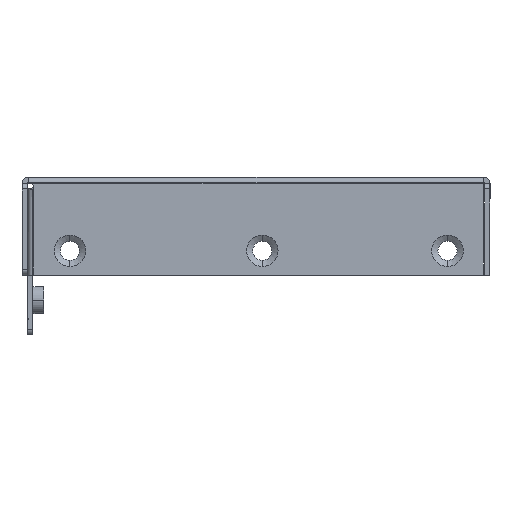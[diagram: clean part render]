
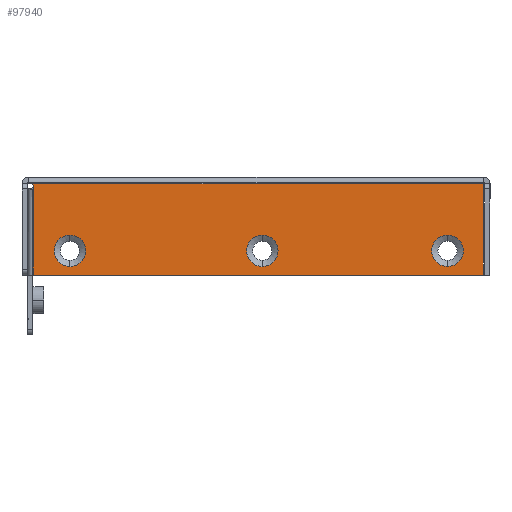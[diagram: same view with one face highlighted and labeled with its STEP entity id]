
A CAD part, left-side view. The second image highlights one B-rep face of the part: STEP entity #97940.
In plain terms, the highlighted planar face has unit normal (-1, 0, 0).
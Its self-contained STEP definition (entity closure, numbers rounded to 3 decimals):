
#44839=DIRECTION('',(0.,1.,0.));
#44840=VECTOR('',#44839,83.1);
#44841=CARTESIAN_POINT('',(-220.,1.2,-1.2));
#44842=LINE('',#44841,#44840);
#44876=CARTESIAN_POINT('',(-220.,84.3,-1.7));
#44877=DIRECTION('',(1.,0.,0.));
#44878=DIRECTION('',(0.,0.,1.));
#44879=AXIS2_PLACEMENT_3D('',#44876,#44877,#44878);
#44884=DIRECTION('',(0.,0.,1.));
#44885=VECTOR('',#44884,16.8);
#44886=CARTESIAN_POINT('',(-220.,1.2,-18.));
#44887=LINE('',#44886,#44885);
#44891=CARTESIAN_POINT('',(-220.,77.1,-13.55));
#44892=DIRECTION('',(1.,0.,0.));
#44893=DIRECTION('',(0.,0.,-1.));
#44894=AXIS2_PLACEMENT_3D('',#44891,#44892,#44893);
#44899=CARTESIAN_POINT('',(-220.,77.1,-13.55));
#44900=DIRECTION('',(1.,0.,0.));
#44901=DIRECTION('',(0.,0.,1.));
#44902=AXIS2_PLACEMENT_3D('',#44899,#44900,#44901);
#44907=CARTESIAN_POINT('',(-220.,41.8,-13.55));
#44908=DIRECTION('',(1.,0.,0.));
#44909=DIRECTION('',(0.,0.,-1.));
#44910=AXIS2_PLACEMENT_3D('',#44907,#44908,#44909);
#44915=CARTESIAN_POINT('',(-220.,41.8,-13.55));
#44916=DIRECTION('',(1.,0.,0.));
#44917=DIRECTION('',(0.,0.,1.));
#44918=AXIS2_PLACEMENT_3D('',#44915,#44916,#44917);
#44923=CARTESIAN_POINT('',(-220.,7.8,-13.55));
#44924=DIRECTION('',(1.,0.,0.));
#44925=DIRECTION('',(0.,0.,1.));
#44926=AXIS2_PLACEMENT_3D('',#44923,#44924,#44925);
#44931=CARTESIAN_POINT('',(-220.,7.8,-13.55));
#44932=DIRECTION('',(1.,0.,0.));
#44933=DIRECTION('',(0.,0.,-1.));
#44934=AXIS2_PLACEMENT_3D('',#44931,#44932,#44933);
#44963=DIRECTION('',(0.,0.,-1.));
#44964=VECTOR('',#44963,16.3);
#44965=CARTESIAN_POINT('',(-220.,83.8,-1.7));
#44966=LINE('',#44965,#44964);
#45113=DIRECTION('',(0.,-1.,0.));
#45114=VECTOR('',#45113,82.6);
#45115=CARTESIAN_POINT('',(-220.,83.8,-18.));
#45116=LINE('',#45115,#45114);
#68873=CARTESIAN_POINT('',(-220.,1.2,-18.));
#68874=CARTESIAN_POINT('',(-220.,1.2,-1.2));
#68875=VERTEX_POINT('',#68873);
#68876=VERTEX_POINT('',#68874);
#69061=CARTESIAN_POINT('',(-220.,77.1,-16.443));
#69062=CARTESIAN_POINT('',(-220.,77.1,-10.657));
#69063=VERTEX_POINT('',#69061);
#69064=VERTEX_POINT('',#69062);
#69069=CARTESIAN_POINT('',(-220.,41.8,-16.443));
#69070=CARTESIAN_POINT('',(-220.,41.8,-10.657));
#69071=VERTEX_POINT('',#69069);
#69072=VERTEX_POINT('',#69070);
#69077=CARTESIAN_POINT('',(-220.,7.8,-10.657));
#69078=CARTESIAN_POINT('',(-220.,7.8,-16.443));
#69079=VERTEX_POINT('',#69077);
#69080=VERTEX_POINT('',#69078);
#79405=CARTESIAN_POINT('',(-220.,84.3,-1.2));
#79406=VERTEX_POINT('',#79405);
#79413=CARTESIAN_POINT('',(-220.,83.8,-18.));
#79414=VERTEX_POINT('',#79413);
#79427=CARTESIAN_POINT('',(-220.,83.8,-1.7));
#79428=VERTEX_POINT('',#79427);
#97906=CARTESIAN_POINT('',(-220.,84.7,0.));
#97907=DIRECTION('',(-1.,0.,0.));
#97908=DIRECTION('',(0.,1.,0.));
#97909=AXIS2_PLACEMENT_3D('',#97906,#97907,#97908);
#97910=PLANE('',#97909);
#97912=ORIENTED_EDGE('',*,*,#97911,.F.);
#97914=ORIENTED_EDGE('',*,*,#97913,.F.);
#97915=ORIENTED_EDGE('',*,*,#97896,.F.);
#97917=ORIENTED_EDGE('',*,*,#97916,.F.);
#97919=ORIENTED_EDGE('',*,*,#97918,.F.);
#97920=EDGE_LOOP('',(#97912,#97914,#97915,#97917,#97919));
#97921=FACE_OUTER_BOUND('',#97920,.F.);
#97923=ORIENTED_EDGE('',*,*,#97922,.F.);
#97925=ORIENTED_EDGE('',*,*,#97924,.F.);
#97926=EDGE_LOOP('',(#97923,#97925));
#97927=FACE_BOUND('',#97926,.F.);
#97929=ORIENTED_EDGE('',*,*,#97928,.F.);
#97931=ORIENTED_EDGE('',*,*,#97930,.F.);
#97932=EDGE_LOOP('',(#97929,#97931));
#97933=FACE_BOUND('',#97932,.F.);
#97935=ORIENTED_EDGE('',*,*,#97934,.F.);
#97937=ORIENTED_EDGE('',*,*,#97936,.F.);
#97938=EDGE_LOOP('',(#97935,#97937));
#97939=FACE_BOUND('',#97938,.F.);
#44880=CIRCLE('',#44879,0.5);
#44895=CIRCLE('',#44894,2.893);
#44903=CIRCLE('',#44902,2.893);
#44911=CIRCLE('',#44910,2.893);
#44919=CIRCLE('',#44918,2.893);
#44927=CIRCLE('',#44926,2.893);
#44935=CIRCLE('',#44934,2.893);
#97896=EDGE_CURVE('',#68876,#79406,#44842,.T.);
#97911=EDGE_CURVE('',#79428,#79414,#44966,.T.);
#97913=EDGE_CURVE('',#79406,#79428,#44880,.T.);
#97916=EDGE_CURVE('',#68875,#68876,#44887,.T.);
#97918=EDGE_CURVE('',#79414,#68875,#45116,.T.);
#97922=EDGE_CURVE('',#69063,#69064,#44895,.T.);
#97924=EDGE_CURVE('',#69064,#69063,#44903,.T.);
#97928=EDGE_CURVE('',#69071,#69072,#44911,.T.);
#97930=EDGE_CURVE('',#69072,#69071,#44919,.T.);
#97934=EDGE_CURVE('',#69079,#69080,#44927,.T.);
#97936=EDGE_CURVE('',#69080,#69079,#44935,.T.);
#97940=ADVANCED_FACE('',(#97921,#97927,#97933,#97939),#97910,.T.);
